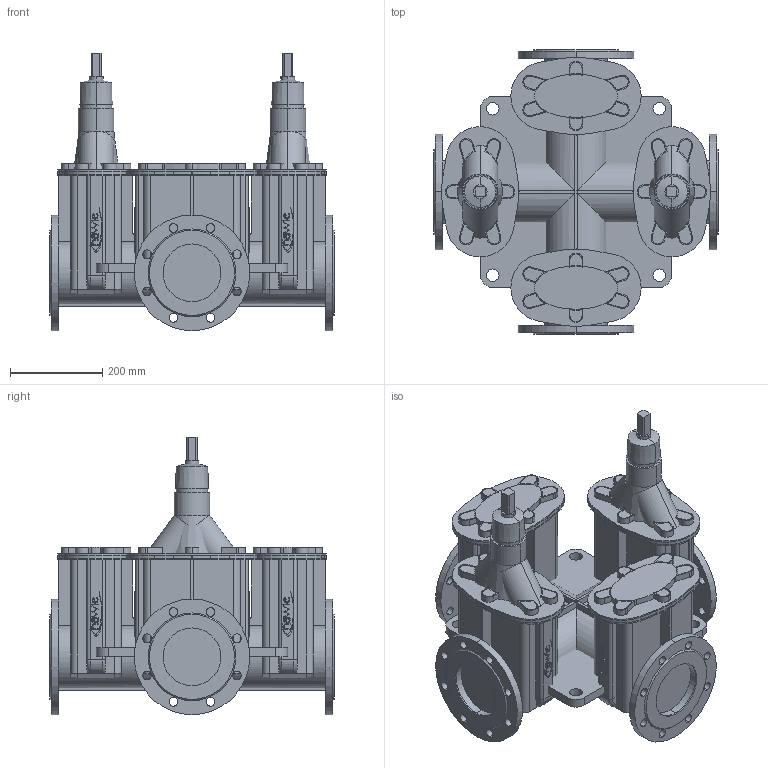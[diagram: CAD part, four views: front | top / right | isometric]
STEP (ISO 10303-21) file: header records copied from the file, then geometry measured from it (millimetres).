
FILE_DESCRIPTION(('STEP AP214'),'1');
FILE_NAME('S:/EK/USER/CAT6/3DHomepage_27-04-2012/neu_23-01-2013/4400E2/4400E2_PN16_DN125_2_9-B-3-B.STP','2013-02-22T08:23:17',(' '),(' '),'Spatial InterOp 3D',' ',' ');
FILE_SCHEMA(('automotive_design'));
Length unit declared in the file: millimetre
Products named in the file (186): 3D-Objekt
Bounding box: 615 x 615 x 600 mm (x, y, z)
Volume: 51301591.4 mm3; surface area: 4220489.9 mm2
Topology: 186 solids, 186 shells, 1810 faces, 4280 edges, 2850 vertices
Faces by surface type: plane 966, cylinder 792, cone 20, bspline 16, torus 16
Entity records: 71788 total; most frequent: DIRECTION 9948, CARTESIAN_POINT 9398, ORIENTED_EDGE 8560, EDGE_CURVE 4280, AXIS2_PLACEMENT_3D 3688, VERTEX_POINT 2850, LINE 2572, VECTOR 2572
